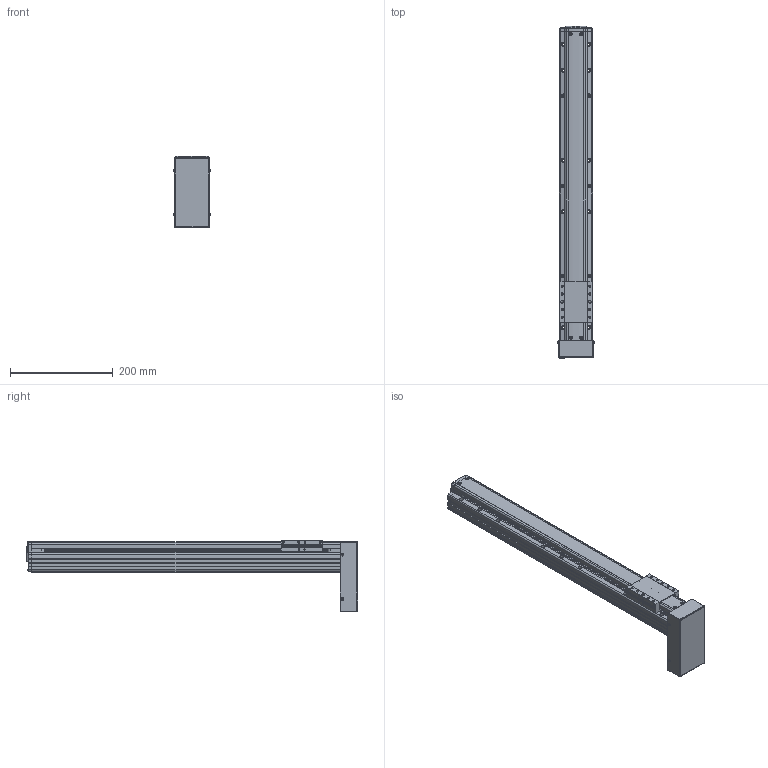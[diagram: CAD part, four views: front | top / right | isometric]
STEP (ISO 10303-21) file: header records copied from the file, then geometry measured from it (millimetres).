
FILE_DESCRIPTION(('STEP AP214'),'1');
FILE_NAME('Z:/Web/3D/PSA65/STP/PSA65-450 (3D)/PSA65ㅁㅁ-450PB.stp','2014-06-25T04:58:57',(' '),(' '),'Spatial InterOp 3D',' ',' ');
FILE_SCHEMA(('automotive_design'));
Length unit declared in the file: millimetre
Products named in the file (49): SLIDE; RRCV-PA060; 1; 2; 3; 4; 5; 6; 7; 8; 9; 10; 11; 12; 13; 14; 15; 16; 17; 18; 19; 20; 21; 22; 23; 24; 25; 26; 27; 28; 29; 30; 31; 스크루 : Round - M3.0 x 8.0; RN8 x 0.75; SHAFT-SAN65; BASE; 스크루 : Round - M3.0 x 6.0; BTCV-SAN65; M3.0 x 6.0
Bounding box: 71.13 x 644.8 x 139 mm (x, y, z)
Volume: 2184641.8 mm3; surface area: 284504.8 mm2
Topology: 49 solids, 49 shells, 1755 faces, 4647 edges, 2960 vertices
Faces by surface type: plane 1038, cylinder 485, cone 167, sphere 30, bspline 19, torus 16
Entity records: 69648 total; most frequent: CARTESIAN_POINT 10992, DIRECTION 9262, ORIENTED_EDGE 9058, EDGE_CURVE 4529, LINE 3202, VECTOR 3202, AXIS2_PLACEMENT_3D 3030, VERTEX_POINT 2960
